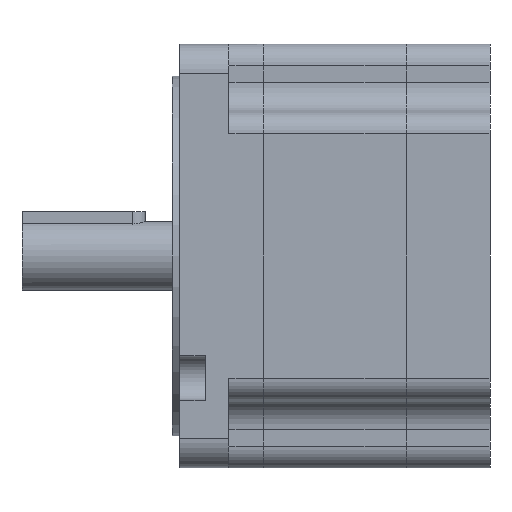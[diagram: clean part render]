
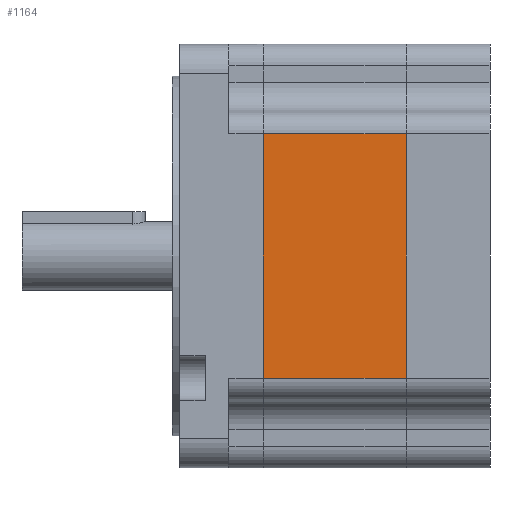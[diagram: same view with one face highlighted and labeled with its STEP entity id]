
A CAD part, left-side view. The second image highlights one B-rep face of the part: STEP entity #1164.
In plain terms, the highlighted planar face has unit normal (-1, 0, 0).
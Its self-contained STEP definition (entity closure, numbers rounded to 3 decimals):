
#265 = VERTEX_POINT ( 'NONE', #1020 ) ;
#526 = VECTOR ( 'NONE', #2342, 1000. ) ;
#651 = EDGE_CURVE ( 'NONE', #2859, #265, #1292, .T. ) ;
#817 = VECTOR ( 'NONE', #2086, 1000. ) ;
#1020 = CARTESIAN_POINT ( 'NONE',  ( 0., 0., -18.2 ) ) ;
#1164 = ADVANCED_FACE ( 'NONE', ( #4588 ), #3109, .F. ) ;
#1292 = LINE ( 'NONE', #1685, #2219 ) ;
#1390 = DIRECTION ( 'NONE',  ( 0., -1., 0. ) ) ;
#1624 = CARTESIAN_POINT ( 'NONE',  ( 0., 0., -67.8 ) ) ;
#1685 = CARTESIAN_POINT ( 'NONE',  ( 0., 29., -18.2 ) ) ;
#1875 = ORIENTED_EDGE ( 'NONE', *, *, #2291, .T. ) ;
#1955 = ORIENTED_EDGE ( 'NONE', *, *, #3508, .F. ) ;
#2035 = LINE ( 'NONE', #1624, #817 ) ;
#2086 = DIRECTION ( 'NONE',  ( 0., 0., 1. ) ) ;
#2122 = LINE ( 'NONE', #4529, #5567 ) ;
#2219 = VECTOR ( 'NONE', #3033, 1000. ) ;
#2291 = EDGE_CURVE ( 'NONE', #4301, #4254, #2122, .T. ) ;
#2342 = DIRECTION ( 'NONE',  ( 0., 0., 1. ) ) ;
#2509 = LINE ( 'NONE', #4138, #526 ) ;
#2859 = VERTEX_POINT ( 'NONE', #4206 ) ;
#2887 = ORIENTED_EDGE ( 'NONE', *, *, #2951, .T. ) ;
#2951 = EDGE_CURVE ( 'NONE', #4254, #265, #2035, .T. ) ;
#3033 = DIRECTION ( 'NONE',  ( 0., -1., 0. ) ) ;
#3109 = PLANE ( 'NONE',  #4450 ) ;
#3508 = EDGE_CURVE ( 'NONE', #4301, #2859, #2509, .T. ) ;
#3718 = EDGE_LOOP ( 'NONE', ( #2887, #5346, #1955, #1875 ) ) ;
#4138 = CARTESIAN_POINT ( 'NONE',  ( 0., 29., -67.8 ) ) ;
#4206 = CARTESIAN_POINT ( 'NONE',  ( 0., 29., -18.2 ) ) ;
#4254 = VERTEX_POINT ( 'NONE', #5868 ) ;
#4301 = VERTEX_POINT ( 'NONE', #5463 ) ;
#4339 = DIRECTION ( 'NONE',  ( 0., 0., -1. ) ) ;
#4450 = AXIS2_PLACEMENT_3D ( 'NONE', #5692, #4788, #4339 ) ;
#4529 = CARTESIAN_POINT ( 'NONE',  ( 0., 29., -67.8 ) ) ;
#4588 = FACE_OUTER_BOUND ( 'NONE', #3718, .T. ) ;
#4788 = DIRECTION ( 'NONE',  ( 1., 0., 0. ) ) ;
#5346 = ORIENTED_EDGE ( 'NONE', *, *, #651, .F. ) ;
#5463 = CARTESIAN_POINT ( 'NONE',  ( 0., 29., -67.8 ) ) ;
#5567 = VECTOR ( 'NONE', #1390, 1000. ) ;
#5692 = CARTESIAN_POINT ( 'NONE',  ( 0., 29., -67.8 ) ) ;
#5868 = CARTESIAN_POINT ( 'NONE',  ( 0., 0., -67.8 ) ) ;
